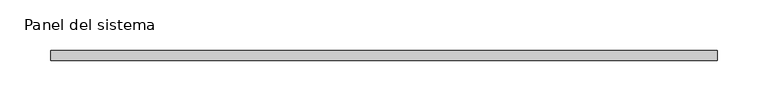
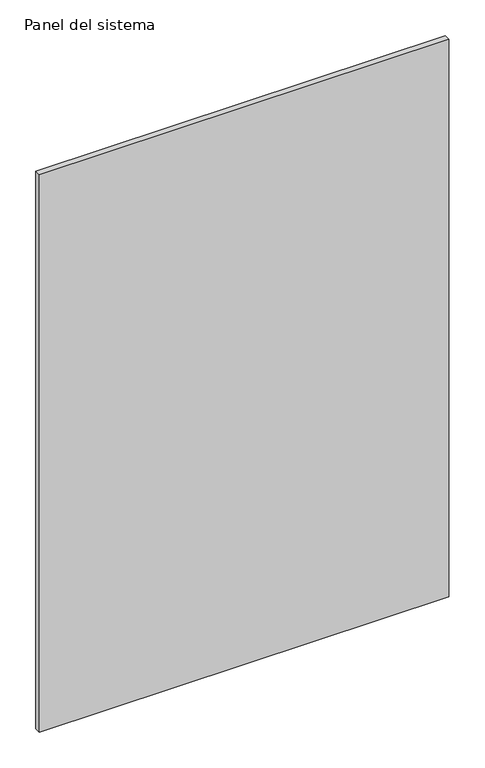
"""IFC4 building model written with IfcOpenShell, lengths in millimetres: plate geometry, Panel del sistema : Barnadal cristal."""

import ifcopenshell
import ifcopenshell.guid

model = None  # the IFC model being written
_history = None  # IfcOwnerHistory: only IFC2X3 demands one
_inside = {}  # id of a spatial element -> (the spatial element, [elements in it])
_under = {}  # id of a project, library or spatial element -> (it, [spatial elements below it])
_declared = {}  # id of a project -> (the project, [libraries it declares])
_typed = {}  # id of a type object -> (the type object, [elements of that type])
_made_of = {}  # id of a material, layer set ... -> (it, [elements and type objects made of it])


def new_model(schema):
    """Start an empty IFC model of exactly this schema.

    Asked for "IFC4X3", IfcOpenShell would pick the latest addendum, in which some entities
    have other attributes; the version numbers below select the first issue.
    IFC2X3 requires an IfcOwnerHistory on every rooted entity: one is made here for all.
    """
    global model, _history
    if schema == "IFC4X3":
        model = ifcopenshell.file(schema_version=(4, 3, 0, 0))
    else:
        model = ifcopenshell.file(schema=schema)
    _inside.clear()
    _under.clear()
    _declared.clear()
    _typed.clear()
    _made_of.clear()
    _history = None
    if model.schema == "IFC2X3":
        org = make("IfcOrganization", Name="unknown")
        user = make(
            "IfcPersonAndOrganization",
            ThePerson=make("IfcPerson", FamilyName="unknown"),
            TheOrganization=org,
        )
        app = make(
            "IfcApplication",
            ApplicationDeveloper=org,
            Version="unknown",
            ApplicationFullName="unknown",
            ApplicationIdentifier="unknown",
        )
        _history = make(
            "IfcOwnerHistory",
            OwningUser=user,
            OwningApplication=app,
            ChangeAction="ADDED",
            CreationDate=0,
        )
    return model


def make(cls, **values):
    """One entity of the class cls with the attributes given. An attribute that is None is left unset."""
    return model.create_entity(
        cls, **{name: value for name, value in values.items() if value is not None}
    )


def rooted(cls, **values):
    """An entity with a GlobalId (a new one), such as an element, a storey or a relation."""
    return make(cls, GlobalId=ifcopenshell.guid.new(), OwnerHistory=_history, **values)


def si_unit(unit_type, name, prefix=None):
    """IfcSIUnit, for example si_unit("LENGTHUNIT", "METRE", prefix="MILLI")."""
    return make("IfcSIUnit", UnitType=unit_type, Prefix=prefix, Name=name)


def assignment(units):
    """IfcUnitAssignment: the units of a project."""
    return None if units is None else make("IfcUnitAssignment", Units=units)


def point(xyz):
    """IfcCartesianPoint."""
    return None if xyz is None else make("IfcCartesianPoint", Coordinates=xyz)


def direction(xyz):
    """IfcDirection."""
    return None if xyz is None else make("IfcDirection", DirectionRatios=xyz)


def frame(location, z_axis=None, x_axis=None):
    """IfcAxis2Placement3D, a coordinate frame: its origin and axes. An axis left out is left unset."""
    return make(
        "IfcAxis2Placement3D",
        Location=point(location),
        Axis=direction(z_axis),
        RefDirection=direction(x_axis),
    )


def origin():
    """The frame at (0, 0, 0) with its axes left unset."""
    return frame((0.0, 0.0, 0.0))


def origin_with_axes():
    """The frame at (0, 0, 0) with the z axis (0, 0, 1) and the x axis (1, 0, 0) written out."""
    return frame((0.0, 0.0, 0.0), z_axis=(0.0, 0.0, 1.0), x_axis=(1.0, 0.0, 0.0))


def place(relative_to, where):
    """IfcLocalPlacement: puts the frame where relative to a parent placement (None: the world)."""
    return make(
        "IfcLocalPlacement", PlacementRelTo=relative_to, RelativePlacement=where
    )


def context(
    kind, dimensions, precision=None, world=None, true_north=None, identifier=None
):
    """IfcGeometricRepresentationContext, for example the 3D "Model" context."""
    return make(
        "IfcGeometricRepresentationContext",
        ContextIdentifier=identifier,
        ContextType=kind,
        CoordinateSpaceDimension=dimensions,
        Precision=precision,
        WorldCoordinateSystem=world,
        TrueNorth=true_north,
    )


def project(units=None, contexts=None):
    """IfcProject with its units and contexts."""
    return rooted(
        "IfcProject",
        Name="project",
        RepresentationContexts=contexts,
        UnitsInContext=assignment(units),
    )


def spatial(cls, under=None, at=None, **own):
    """A site, building, storey or space (cls), placed at a placement, below another one or the project."""
    s = rooted(cls, ObjectPlacement=at, **own)
    if under is not None:
        _under.setdefault(under.id(), (under, []))[1].append(s)
    return s


def polyline(points):
    """IfcPolyline through the points."""
    return make("IfcPolyline", Points=[point(p) for p in points])


def outline(outer, holes=None, kind="AREA"):
    """IfcArbitraryClosedProfileDef: a profile drawn as a closed curve; with holes, ...WithVoids."""
    if holes is None:
        return make("IfcArbitraryClosedProfileDef", ProfileType=kind, OuterCurve=outer)
    return make(
        "IfcArbitraryProfileDefWithVoids",
        ProfileType=kind,
        OuterCurve=outer,
        InnerCurves=holes,
    )


def extrude(swept, where, along, depth):
    """IfcExtrudedAreaSolid: the profile swept, set in the frame where, extruded along a direction by depth."""
    return make(
        "IfcExtrudedAreaSolid",
        SweptArea=swept,
        Position=where,
        ExtrudedDirection=direction(along),
        Depth=depth,
    )


def shape(context_of_items, identifier, shape_type, items):
    """IfcShapeRepresentation: the items that make up one representation, for example the "Body"."""
    return make(
        "IfcShapeRepresentation",
        ContextOfItems=context_of_items,
        RepresentationIdentifier=identifier,
        RepresentationType=shape_type,
        Items=items,
    )


def source(mapping_origin, context_of_items, identifier, shape_type, items):
    """IfcRepresentationMap: a shape defined once, which mapped items show again and again."""
    return make(
        "IfcRepresentationMap",
        MappingOrigin=mapping_origin,
        MappedRepresentation=shape(context_of_items, identifier, shape_type, items),
    )


def transform(
    local_origin,
    x_axis=None,
    y_axis=None,
    z_axis=None,
    scale=None,
    scale2=None,
    scale3=None,
    uniform=True,
):
    """IfcCartesianTransformationOperator3D, or its non-uniform kind. x_axis, y_axis, z_axis: its Axis1, 2, 3."""
    if uniform:
        return make(
            "IfcCartesianTransformationOperator3D",
            Axis1=direction(x_axis),
            Axis2=direction(y_axis),
            LocalOrigin=point(local_origin),
            Scale=scale,
            Axis3=direction(z_axis),
        )
    return make(
        "IfcCartesianTransformationOperator3DnonUniform",
        Axis1=direction(x_axis),
        Axis2=direction(y_axis),
        LocalOrigin=point(local_origin),
        Scale=scale,
        Axis3=direction(z_axis),
        Scale2=scale2,
        Scale3=scale3,
    )


def mapped(mapping_source, mapping_target):
    """IfcMappedItem: shows the shape of a source again, moved by a transform."""
    return make(
        "IfcMappedItem", MappingSource=mapping_source, MappingTarget=mapping_target
    )


def made_of(thing, what):
    """Note that an element or type object is made of a material, layer set ...; save() writes the relation."""
    if what is not None:
        _made_of.setdefault(what.id(), (what, []))[1].append(thing)
    return thing


def element(
    cls,
    number,
    at=None,
    inside=None,
    cuts=None,
    type_object=None,
    material=None,
    context=None,
    identifier="Body",
    shape_type=None,
    held_by="IfcProductDefinitionShape",
    body=None,
    shapes=None,
    **own,
):
    """One element of the class cls, such as IfcWall. Its Tag is "e" and its number.

    at: its placement. inside: the storey or other place that contains it. cuts: it is an
    opening in that element (IfcRelVoidsElement). A single representation is given by context,
    identifier, shape_type and body (its items); several are given by shapes. held_by: the class
    of the entity that holds the representations. save() writes the other relations.
    """
    e = rooted(cls, Tag="e%d" % number, ObjectPlacement=at, **own)
    if body is not None:
        shapes = [shape(context, identifier, shape_type, body)]
    if shapes is not None:
        e.Representation = make(held_by, Representations=shapes)
    if inside is not None:
        _inside.setdefault(inside.id(), (inside, []))[1].append(e)
    if cuts is not None:
        rooted(
            "IfcRelVoidsElement", RelatingBuildingElement=cuts, RelatedOpeningElement=e
        )
    if type_object is not None:
        _typed.setdefault(type_object.id(), (type_object, []))[1].append(e)
    return made_of(e, material)


def aggregate(whole, parts):
    """IfcRelAggregates: a whole, such as a stair, and the parts it consists of."""
    return rooted("IfcRelAggregates", RelatingObject=whole, RelatedObjects=parts)


def save(model, path):
    """Write the relations noted so far, then the file.

    IfcRelAggregates (storeys below a building ...), IfcRelContainedInSpatialStructure (elements
    in a storey), IfcRelDefinesByType, IfcRelAssociatesMaterial and IfcRelDeclares: one each for
    every whole, place, type object, material and project.
    """
    for whole, parts in _under.values():
        aggregate(whole, parts)
    for where, things in _inside.values():
        rooted(
            "IfcRelContainedInSpatialStructure",
            RelatedElements=things,
            RelatingStructure=where,
        )
    for kind, things in _typed.values():
        rooted("IfcRelDefinesByType", RelatedObjects=things, RelatingType=kind)
    for what, things in _made_of.values():
        rooted("IfcRelAssociatesMaterial", RelatedObjects=things, RelatingMaterial=what)
    for by, libraries in _declared.values():
        rooted("IfcRelDeclares", RelatingContext=by, RelatedDefinitions=libraries)
    model.write(path)


def panel_del_sistema_5ee2ac6d(model_context):
    return source(origin(), model_context, "Body", "SweptSolid", [
        extrude(outline(polyline([(330.0, -5.0), (-330.0, -5.0), (-330.0, 5.0), (330.0, 5.0), (330.0, -5.0)])), origin_with_axes(), (0.0, 0.0, 1.0), 950.0),
    ])


if __name__ == "__main__":
    model = new_model("IFC4")
    model_context = context("Model", 3, world=origin())
    ifc_project = project(units=[si_unit("LENGTHUNIT", "METRE", prefix="MILLI")], contexts=[model_context])
    site = spatial("IfcSite", under=ifc_project)
    building = spatial("IfcBuilding", under=site)
    placement = place(None, origin())
    panel_del_sistema_shape = panel_del_sistema_5ee2ac6d(model_context)
    element("IfcPlate", 1, ObjectType="Panel del sistema : Barnadal cristal", at=placement, inside=building, context=model_context, shape_type="MappedRepresentation", body=[
        mapped(panel_del_sistema_shape, transform((0.0, 0.0, 0.0), x_axis=(1.0, 0.0, 0.0), y_axis=(0.0, 1.0, 0.0), z_axis=(0.0, 0.0, 1.0))),
    ])
    save(model, "model.ifc")
